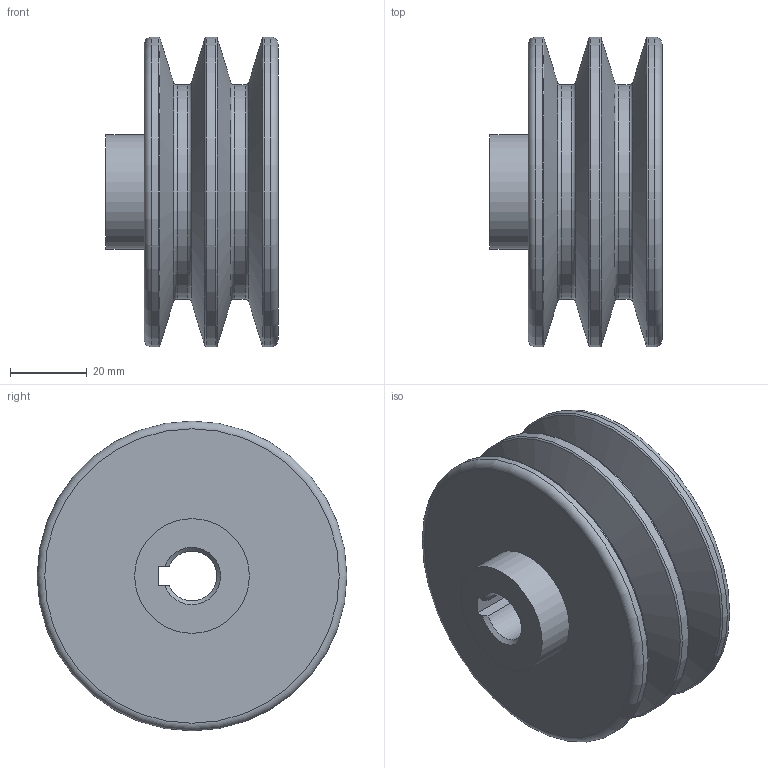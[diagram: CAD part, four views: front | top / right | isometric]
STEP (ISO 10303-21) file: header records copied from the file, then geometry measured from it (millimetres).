
FILE_DESCRIPTION(/* description */ (''),/* implementation_level */ '2;1');
FILE_NAME(/* name */ '',/* time_stamp */ '2024-09-10T16:44:58+09:00',/* author */ ('jhkim'),/* organization */ (''),/* preprocessor_version */ 'ST-DEVELOPER v20',/* originating_system */ 'Autodesk Inventor 2025',/* authorisation */ '');
FILE_SCHEMA (('AUTOMOTIVE_DESIGN { 1 0 10303 214 3 1 1 }'));
Length unit declared in the file: millimetre
Products named in the file (1): V 벨트 풀리
Bounding box: 45 x 81 x 81 mm (x, y, z)
Volume: 127770.3 mm3; surface area: 28595.9 mm2
Topology: 1 solids, 1 shells, 30 faces, 78 edges, 52 vertices
Faces by surface type: torus 10, cylinder 8, plane 7, cone 5
Full cylindrical faces by diameter (mm): 29 x1, 30 x1, 56 x2, 81 x3
Entity records: 1002 total; most frequent: DIRECTION 193, CARTESIAN_POINT 165, ORIENTED_EDGE 156, AXIS2_PLACEMENT_3D 86, EDGE_CURVE 78, CIRCLE 55, VERTEX_POINT 52, EDGE_LOOP 34
